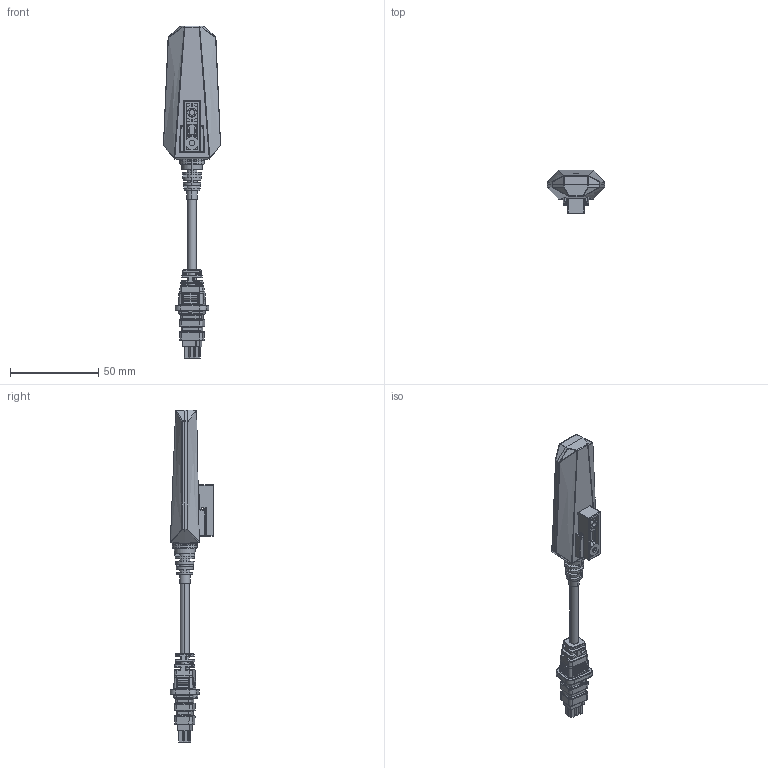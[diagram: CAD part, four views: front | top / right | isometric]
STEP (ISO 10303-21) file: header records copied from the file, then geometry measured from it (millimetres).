
FILE_DESCRIPTION (( 'STEP AP203' ), '1' );
FILE_NAME ('3D_TWD2.STEP', '2019-06-21T10:30:14', ( '' ), ( '' ), 'SwSTEP 2.0', 'SolidWorks 2015', '' );
FILE_SCHEMA (( 'CONFIG_CONTROL_DESIGN' ));
Products named in the file (1): 3D_TWD2
Bounding box: 32.43 x 24.72 x 188.37 mm (x, y, z)
Volume: 16433.4 mm3; surface area: 21803.4 mm2
Topology: 7 solids, 8 shells, 1676 faces, 4219 edges, 2582 vertices
Faces by surface type: plane 660, cylinder 584, bspline 260, cone 102, sphere 46, torus 24
Entity records: 54822 total; most frequent: CARTESIAN_POINT 18076, ORIENTED_EDGE 8332, DIRECTION 6798, EDGE_CURVE 4166, VERTEX_POINT 2580, AXIS2_PLACEMENT_3D 2307, VECTOR 2184, LINE 2184
